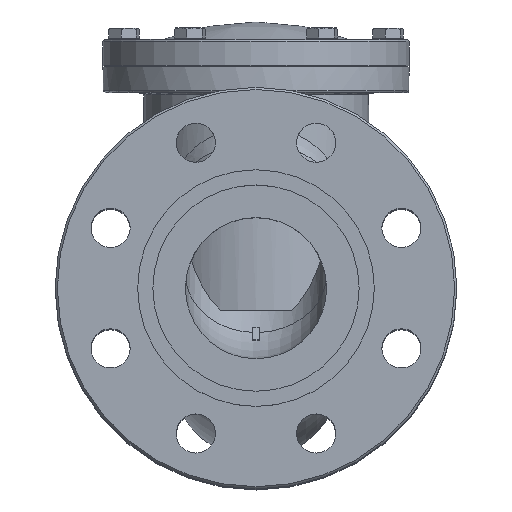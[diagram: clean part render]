
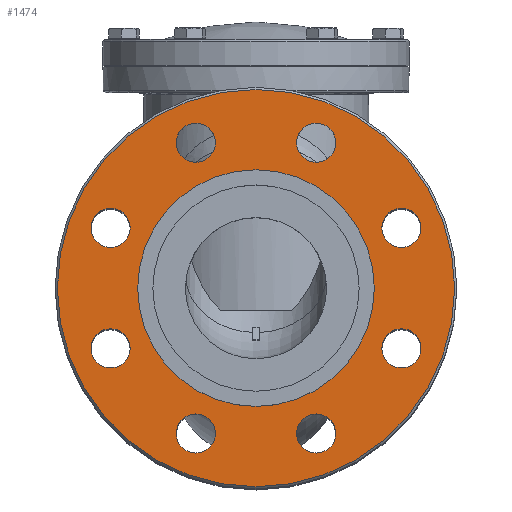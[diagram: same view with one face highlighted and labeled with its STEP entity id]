
A CAD part, top view. The second image highlights one B-rep face of the part: STEP entity #1474.
In plain terms, the highlighted planar face has unit normal (0, 0, 1).
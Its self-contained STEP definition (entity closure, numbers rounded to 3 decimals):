
#1474=ADVANCED_FACE('',(#6227,#6229,#6231,#6233,#6235,#6237,#6239,#6241,#6243,#6245),
#6247,.F.);
#6227=FACE_BOUND('',#6228,.T.);
#6228=EDGE_LOOP('',(#8542));
#6229=FACE_BOUND('',#6230,.T.);
#6230=EDGE_LOOP('',(#8543));
#6231=FACE_BOUND('',#6232,.T.);
#6232=EDGE_LOOP('',(#8544));
#6233=FACE_BOUND('',#6234,.T.);
#6234=EDGE_LOOP('',(#8545));
#6235=FACE_BOUND('',#6236,.T.);
#6236=EDGE_LOOP('',(#8546));
#6237=FACE_BOUND('',#6238,.T.);
#6238=EDGE_LOOP('',(#8547));
#6239=FACE_BOUND('',#6240,.T.);
#6240=EDGE_LOOP('',(#8548));
#6241=FACE_BOUND('',#6242,.T.);
#6242=EDGE_LOOP('',(#8549));
#6243=FACE_BOUND('',#6244,.T.);
#6244=EDGE_LOOP('',(#8550));
#6245=FACE_BOUND('',#6246,.T.);
#6246=EDGE_LOOP('',(#8551));
#6247=PLANE('',#6248);
#6248=AXIS2_PLACEMENT_3D('',#6249,#6250,#6251);
#6249=CARTESIAN_POINT('',(0.,0.,140.5));
#6250=DIRECTION('',(0.,0.,-1.));
#6251=DIRECTION('',(0.,1.,0.));
#8542=ORIENTED_EDGE('',*,*,#9697,.F.);
#8543=ORIENTED_EDGE('',*,*,#9698,.T.);
#8544=ORIENTED_EDGE('',*,*,#9687,.F.);
#8545=ORIENTED_EDGE('',*,*,#9688,.F.);
#8546=ORIENTED_EDGE('',*,*,#9689,.F.);
#8547=ORIENTED_EDGE('',*,*,#9690,.F.);
#8548=ORIENTED_EDGE('',*,*,#9691,.F.);
#8549=ORIENTED_EDGE('',*,*,#9692,.F.);
#8550=ORIENTED_EDGE('',*,*,#9693,.F.);
#8551=ORIENTED_EDGE('',*,*,#9694,.F.);
#9687=EDGE_CURVE('',#10742,#10742,#10743,.T.);
#9688=EDGE_CURVE('',#10744,#10744,#10745,.T.);
#9689=EDGE_CURVE('',#10746,#10746,#10747,.T.);
#9690=EDGE_CURVE('',#10748,#10748,#10749,.T.);
#9691=EDGE_CURVE('',#10750,#10750,#10751,.T.);
#9692=EDGE_CURVE('',#10752,#10752,#10753,.T.);
#9693=EDGE_CURVE('',#10754,#10754,#10755,.T.);
#9694=EDGE_CURVE('',#10756,#10756,#10757,.T.);
#9697=EDGE_CURVE('',#10762,#10762,#10763,.F.);
#9698=EDGE_CURVE('',#10764,#10764,#10765,.T.);
#10742=VERTEX_POINT('',#18471);
#10743=CIRCLE('',#18472,9.);
#10744=VERTEX_POINT('',#18476);
#10745=CIRCLE('',#18477,9.);
#10746=VERTEX_POINT('',#18481);
#10747=CIRCLE('',#18482,9.);
#10748=VERTEX_POINT('',#18486);
#10749=CIRCLE('',#18487,9.);
#10750=VERTEX_POINT('',#18491);
#10751=CIRCLE('',#18492,9.);
#10752=VERTEX_POINT('',#18496);
#10753=CIRCLE('',#18497,9.);
#10754=VERTEX_POINT('',#18501);
#10755=CIRCLE('',#18502,9.);
#10756=VERTEX_POINT('',#18506);
#10757=CIRCLE('',#18507,9.);
#10762=VERTEX_POINT('',#18521);
#10763=CIRCLE('',#18522,91.5);
#10764=VERTEX_POINT('',#18526);
#10765=CIRCLE('',#18527,54.5);
#18471=CARTESIAN_POINT('',(36.745,-66.981,140.5));
#18472=AXIS2_PLACEMENT_3D('',#18473,#18474,#18475);
#18473=CARTESIAN_POINT('',(27.745,-66.981,140.5));
#18474=DIRECTION('',(0.,0.,1.));
#18475=DIRECTION('',(1.,0.,0.));
#18476=CARTESIAN_POINT('',(-18.745,-66.981,140.5));
#18477=AXIS2_PLACEMENT_3D('',#18478,#18479,#18480);
#18478=CARTESIAN_POINT('',(-27.745,-66.981,140.5));
#18479=DIRECTION('',(0.,0.,1.));
#18480=DIRECTION('',(1.,0.,0.));
#18481=CARTESIAN_POINT('',(-57.981,-27.745,140.5));
#18482=AXIS2_PLACEMENT_3D('',#18483,#18484,#18485);
#18483=CARTESIAN_POINT('',(-66.981,-27.745,140.5));
#18484=DIRECTION('',(0.,0.,1.));
#18485=DIRECTION('',(1.,0.,0.));
#18486=CARTESIAN_POINT('',(-57.981,27.745,140.5));
#18487=AXIS2_PLACEMENT_3D('',#18488,#18489,#18490);
#18488=CARTESIAN_POINT('',(-66.981,27.745,140.5));
#18489=DIRECTION('',(0.,0.,1.));
#18490=DIRECTION('',(1.,0.,0.));
#18491=CARTESIAN_POINT('',(-18.745,66.981,140.5));
#18492=AXIS2_PLACEMENT_3D('',#18493,#18494,#18495);
#18493=CARTESIAN_POINT('',(-27.745,66.981,140.5));
#18494=DIRECTION('',(0.,0.,1.));
#18495=DIRECTION('',(1.,0.,0.));
#18496=CARTESIAN_POINT('',(36.745,66.981,140.5));
#18497=AXIS2_PLACEMENT_3D('',#18498,#18499,#18500);
#18498=CARTESIAN_POINT('',(27.745,66.981,140.5));
#18499=DIRECTION('',(0.,0.,1.));
#18500=DIRECTION('',(1.,0.,0.));
#18501=CARTESIAN_POINT('',(75.981,27.745,140.5));
#18502=AXIS2_PLACEMENT_3D('',#18503,#18504,#18505);
#18503=CARTESIAN_POINT('',(66.981,27.745,140.5));
#18504=DIRECTION('',(0.,0.,1.));
#18505=DIRECTION('',(1.,0.,0.));
#18506=CARTESIAN_POINT('',(75.981,-27.745,140.5));
#18507=AXIS2_PLACEMENT_3D('',#18508,#18509,#18510);
#18508=CARTESIAN_POINT('',(66.981,-27.745,140.5));
#18509=DIRECTION('',(0.,0.,1.));
#18510=DIRECTION('',(1.,0.,0.));
#18521=CARTESIAN_POINT('',(-91.5,0.,140.5));
#18522=AXIS2_PLACEMENT_3D('',#18523,#18524,#18525);
#18523=CARTESIAN_POINT('',(0.,0.,140.5));
#18524=DIRECTION('',(0.,0.,1.));
#18525=DIRECTION('',(-1.,0.,0.));
#18526=CARTESIAN_POINT('',(0.,54.5,140.5));
#18527=AXIS2_PLACEMENT_3D('',#18528,#18529,#18530);
#18528=CARTESIAN_POINT('',(0.,0.,140.5));
#18529=DIRECTION('',(0.,0.,-1.));
#18530=DIRECTION('',(0.,1.,0.));
